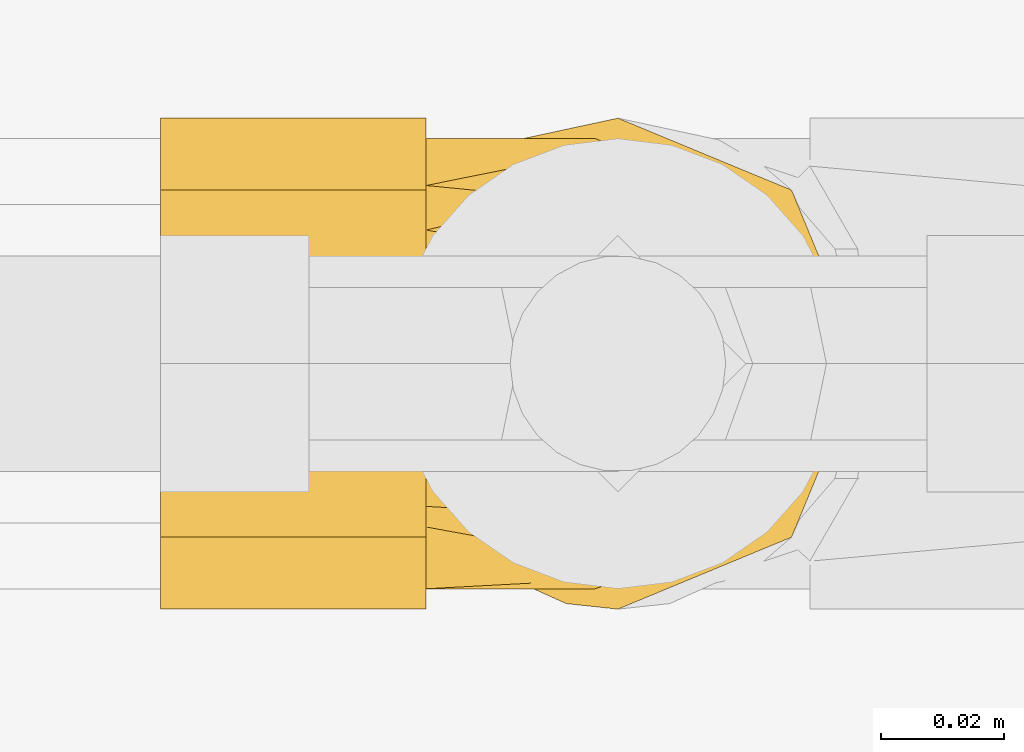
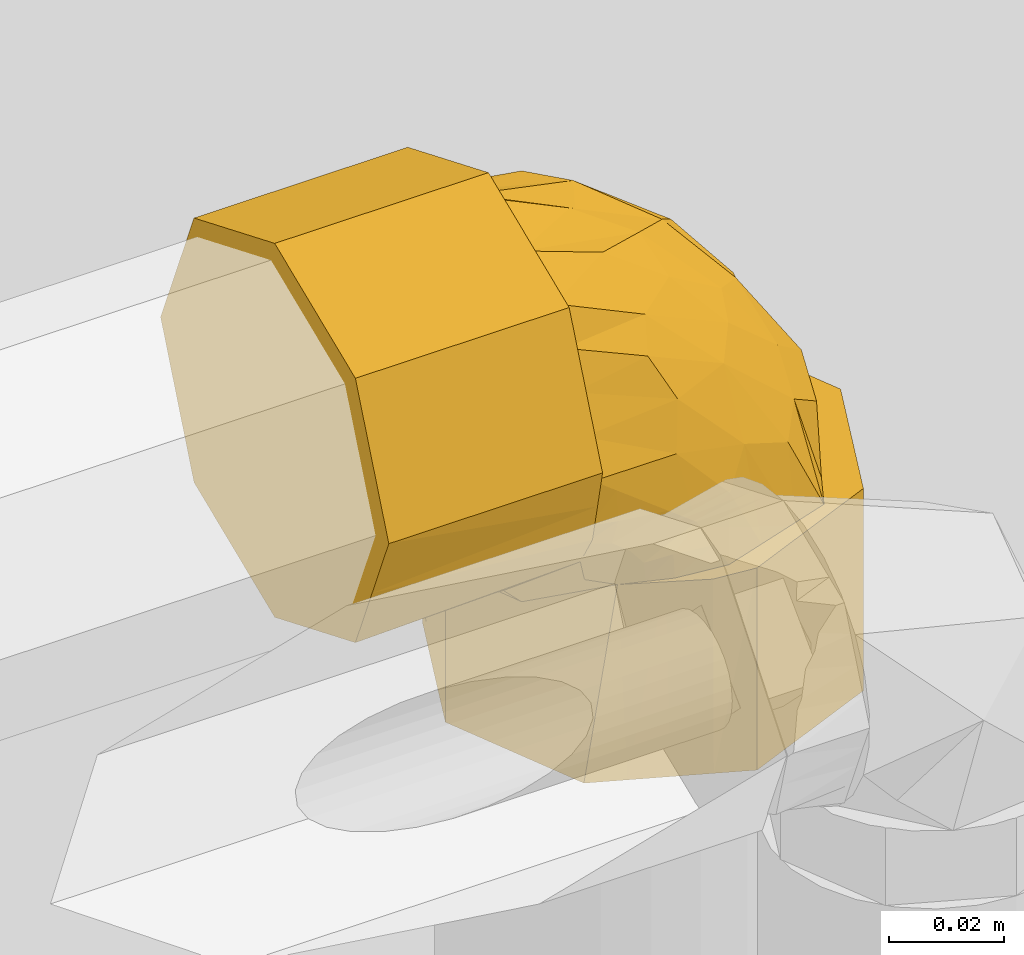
# One storey, part 153 of 652: 1 covering.
"""IFC2X3 building model written with IfcOpenShell, lengths in millimetres."""

from ifc_helpers import new_model, entity, si_unit, converted_unit, direction, frame, origin, place, context, subcontext, project, spatial, faceted_brep, material, type_object, element, save


model = new_model("IFC2X3")

# Units and contexts
model_context = context("Model", 3, precision=0.01, world=frame((0.0, 0.0, 308426.39999999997)), true_north=direction((6.123233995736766e-17, 1.0)))
plan_context = context("Plan", 3, precision=0.01, world=frame((0.0, 0.0, 308426.39999999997)), true_north=direction((6.123233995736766e-17, 1.0)))
body_context = subcontext(model_context, "Body", "Model", "MODEL_VIEW")
ifc_project = project(units=[si_unit("LENGTHUNIT", "METRE", prefix="MILLI"), si_unit("AREAUNIT", "SQUARE_METRE"), si_unit("VOLUMEUNIT", "CUBIC_METRE"), converted_unit("PLANEANGLEUNIT", "DEGREE", entity("IfcPlaneAngleMeasure", 0.017453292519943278), si_unit("PLANEANGLEUNIT", "RADIAN"), dimensions=[0, 0, 0, 0, 0, 0, 0])], contexts=[model_context, plan_context])

# Site, building, storey
site_placement = place(None, origin())
site = spatial("IfcSite", under=ifc_project, at=site_placement, Name="Default", CompositionType="ELEMENT")
building_placement = place(site_placement, origin())
building = spatial("IfcBuilding", under=site, at=building_placement, CompositionType="ELEMENT")
storey_placement = place(building_placement, frame((0.0, 0.0, 1730.6999999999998)))
storey = spatial("IfcBuildingStorey", under=building, at=storey_placement, Name="EG_Produktion_FFB", CompositionType="ELEMENT", Elevation=1730.6999999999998)

# Covering
ifc_material = material(Name="Dämmung - Armaflex-Schlauch")
covering_type = type_object("IfcCoveringType", Name="Rohrdämmung außen:Armaflex-Schlauch", PredefinedType="INSULATION")
covering_placement = place(storey_placement, frame((19395.91574999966, 59908.6467277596, 4391.353272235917)))
element("IfcCovering", 1, at=covering_placement, inside=storey, type_object=covering_type, material=ifc_material, Name="Rohrdämmung außen:Armaflex-Schlauch", ObjectType="Rohrdämmung außen:Armaflex-Schlauch", PredefinedType="INSULATION", context=body_context, shape_type="Brep", body=[
    faceted_brep([(60.14407617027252, 76.62300673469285, -72.4317722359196), (64.1318528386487, 77.08951820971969, -72.4317722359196), (70.33992920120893, 77.81577223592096, -72.4317722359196), (77.9757924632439, 74.37467999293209, -72.4317722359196), (85.61165572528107, 70.93358774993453, -72.4317722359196), (92.77248166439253, 67.7065704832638, -72.4317722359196), (99.93330760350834, 64.47955321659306, -72.4317722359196), (104.18429126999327, 52.916412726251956, -72.4317722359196), (108.4352749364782, 41.35327223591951, -72.4317722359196), (104.78880055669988, 34.14184701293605, -72.4317722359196), (101.14232617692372, 26.930421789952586, -72.4317722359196), (97.49585179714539, 19.71899656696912, -72.4317722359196), (93.84937741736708, 12.507571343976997, -72.4317722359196), (86.49570507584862, 10.125063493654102, -72.4317722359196), (78.41781713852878, 7.507917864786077, -72.4317722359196), (70.33992920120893, 4.890772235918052, -72.4317722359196), (64.13185283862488, 5.617026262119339, -72.4317722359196), (60.14407617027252, 6.083537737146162, -72.4317722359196), (55.312279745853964, 7.721836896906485, -72.4317722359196), (50.48048332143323, 9.36013605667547, -72.4317722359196), (58.09790960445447, 5.9231002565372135, -72.4317722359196), (65.71533588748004, 2.486064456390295, -72.4317722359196), (74.08425000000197, 1.5952722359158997, -72.4317722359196), (82.08002046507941, 4.907228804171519, -72.4317722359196), (88.14082570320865, 7.417696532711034, -72.4317722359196), (95.16911355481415, 10.3289086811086, -72.4317722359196), (102.19740140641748, 13.240120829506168, -72.4317722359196), (105.10861355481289, 20.26840868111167, -72.4317722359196), (108.01982570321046, 27.296696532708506, -72.4317722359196), (110.93103785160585, 34.32498438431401, -72.4317722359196), (113.84225000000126, 41.35327223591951, -72.4317722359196), (110.53029340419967, 49.349042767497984, -72.4317722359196), (108.01982570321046, 55.40984793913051, -72.4317722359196), (105.10861355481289, 62.43813579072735, -72.4317722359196), (102.19740140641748, 69.46642364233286, -72.4317722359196), (95.16911355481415, 72.37763579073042, -72.4317722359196), (88.14082570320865, 75.28884793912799, -72.4317722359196), (82.0800191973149, 77.79931619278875, -72.4317722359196), (74.08425000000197, 81.11127223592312, -72.4317722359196), (65.90827541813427, 79.3520978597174, -72.4317722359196), (57.732300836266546, 77.59292348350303, -72.4317722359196), (50.48048332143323, 73.34640841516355, -72.4317722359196), (55.312279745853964, 74.98470757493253, -72.4317722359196), (45.971098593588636, 13.240120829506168, -115.43752223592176), (43.05988644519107, 20.26840868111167, -115.43752223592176), (40.1486742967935, 27.296696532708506, -115.43752223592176), (37.63820666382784, 33.35750154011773, -115.43752223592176), (34.3262500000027, 41.35327223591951, -115.43752223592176), (37.6382059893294, 49.34904130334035, -115.43752223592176), (40.1486742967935, 55.40984793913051, -115.43752223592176), (43.0598864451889, 62.43813579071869, -115.43752223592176), (45.971098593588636, 69.46642364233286, -115.43752223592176), (52.999386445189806, 72.37763579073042, -115.43752223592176), (60.02767429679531, 75.28884793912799, -115.43752223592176), (67.05596214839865, 78.20006008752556, -115.43752223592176), (74.08425000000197, 81.11127223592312, -115.43752223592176), (81.11253785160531, 78.20006008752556, -115.43752223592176), (88.14082570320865, 75.28884793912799, -115.43752223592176), (95.16911355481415, 72.37763579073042, -115.43752223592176), (102.19740140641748, 69.46642364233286, -115.43752223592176), (105.10861355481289, 62.43813579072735, -115.43752223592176), (108.01982570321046, 55.40984793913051, -115.43752223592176), (110.93103785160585, 48.38156008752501, -115.43752223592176), (113.84225000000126, 41.35327223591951, -115.43752223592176), (110.93103785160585, 34.32498438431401, -115.43752223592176), (108.01982570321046, 27.296696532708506, -115.43752223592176), (105.10861355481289, 20.26840868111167, -115.43752223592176), (102.19740140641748, 13.240120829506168, -115.43752223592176), (90.0757916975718, 8.219185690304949, -115.43752223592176), (82.08002084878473, 4.907228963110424, -115.43752223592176), (74.08425000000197, 1.5952722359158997, -115.43752223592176), (67.05596214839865, 4.506484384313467, -115.43752223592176), (60.02767429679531, 7.417696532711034, -115.43752223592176), (52.999386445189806, 10.328908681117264, -115.43752223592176), (44.71268924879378, 16.057183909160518, -76.29438305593), (34.3262500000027, 41.35327223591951, -82.55017689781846), (36.63557258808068, 32.053751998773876, -81.35358538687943), (38.944895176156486, 22.754231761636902, -80.1569938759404), (37.790233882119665, 27.40399188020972, -80.75528963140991), (44.71268924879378, 66.6493605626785, -76.29438305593), (36.63557258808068, 50.65279247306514, -81.35358538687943), (38.944895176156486, 59.952312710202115, -80.1569938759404), (35.39615835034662, 45.661736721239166, -81.99579646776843), (43.00574999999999, 81.11127223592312, -41.353272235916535), (43.00574999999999, 77.79931569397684, -33.35750183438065), (43.00574999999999, 75.28884793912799, -27.29669653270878), (43.00574999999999, 72.37763579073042, -20.26840868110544), (43.00574999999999, 69.46642364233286, -13.240120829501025), (43.00574999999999, 62.43813579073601, -10.328908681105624), (43.00574999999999, 55.40984793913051, -7.417696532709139), (43.00574999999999, 49.34904137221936, -4.90722825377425), (43.00574999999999, 41.35327223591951, -1.5952722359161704), (43.00574999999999, 33.357502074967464, -4.907228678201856), (43.00574999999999, 27.296696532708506, -7.417696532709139), (43.00574999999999, 20.26840868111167, -10.328908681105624), (43.00574999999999, 13.240120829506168, -13.240120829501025), (43.00574999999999, 10.3289086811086, -20.26840868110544), (43.00574999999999, 7.417696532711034, -27.29669653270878), (43.00574999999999, 4.506484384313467, -34.32498438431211), (43.00574999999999, 1.5952722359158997, -41.353272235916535), (43.00574999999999, 3.3544632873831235, -49.52928377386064), (43.00574999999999, 5.113654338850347, -57.705295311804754), (43.00574999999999, 9.36013605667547, -64.95703891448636), (43.00574999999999, 7.721836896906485, -60.1252424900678), (43.00574999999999, 6.083537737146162, -55.29344606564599), (43.00574999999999, 5.617026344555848, -51.305670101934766), (43.005749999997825, 5.253899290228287, -48.20163156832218), (43.00574999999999, 4.890772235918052, -45.097593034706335), (43.00574999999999, 8.22731807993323, -37.69714258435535), (43.00574999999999, 11.563863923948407, -30.296692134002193), (43.00574999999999, 14.900409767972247, -22.896241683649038), (43.00574999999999, 18.236955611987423, -15.495791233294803), (43.00574999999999, 24.01603476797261, -13.372405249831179), (43.00574999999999, 29.795113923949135, -11.249019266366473), (43.00574999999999, 41.35327223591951, -7.002247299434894), (43.00574999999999, 48.56686113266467, -10.65162291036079), (43.00574999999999, 55.78045002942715, -14.30099852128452), (43.00574999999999, 62.99403892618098, -17.95037413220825), (43.00574999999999, 70.2076278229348, -21.599749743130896), (43.00574999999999, 72.10966392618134, -27.47421056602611), (43.00574999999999, 74.01170002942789, -33.34867138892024), (43.00574999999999, 77.81577223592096, -45.097593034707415), (43.00574999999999, 77.45264518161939, -48.201631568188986), (43.00574999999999, 77.08951812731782, -51.30567010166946), (43.00574999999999, 76.62300673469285, -55.29344606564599), (43.00574999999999, 74.98470757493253, -60.1252424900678), (43.00574999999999, 73.34640841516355, -64.95703891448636), (43.00574999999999, 76.7834397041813, -57.3396335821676), (43.00574999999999, 80.22047099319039, -49.72222824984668), (0.0, 4.506484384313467, -34.32498438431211), (0.0, 7.417696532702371, -27.29669653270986), (0.0, 10.328908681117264, -20.26840868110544), (0.0, 13.240120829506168, -13.240120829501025), (0.0, 25.361730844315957, -8.219185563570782), (0.0, 33.35750154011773, -4.907228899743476), (0.0, 41.35327223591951, -1.5952722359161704), (0.0, 48.38156008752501, -4.506484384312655), (0.0, 55.40984793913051, -7.417696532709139), (0.0, 62.43813579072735, -10.328908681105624), (0.0, 69.46642364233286, -13.240120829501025), (0.0, 72.37763579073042, -20.26840868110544), (0.0, 75.28884793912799, -27.29669653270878), (0.0, 78.20006008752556, -34.32498438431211), (0.0, 81.11127223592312, -41.353272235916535), (0.0, 78.20006008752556, -48.381560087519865), (0.0, 75.28884793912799, -55.40984793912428), (0.0, 72.37763579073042, -62.4381357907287), (0.0, 69.46642364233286, -69.46642364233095), (0.0, 62.43813579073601, -72.37763579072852), (0.0, 55.40984793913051, -75.28884793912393), (0.0, 49.34904309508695, -77.79931550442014), (0.0, 41.35327223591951, -81.1112722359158), (0.0, 33.357503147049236, -77.79931623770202), (0.0, 27.296696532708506, -75.28884793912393), (0.0, 20.26840868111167, -72.37763579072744), (0.0, 13.240120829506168, -69.46642364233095), (0.0, 10.3289086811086, -62.43813579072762), (0.0, 7.417696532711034, -55.40984793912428), (0.0, 4.907228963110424, -49.34904308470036), (0.0, 1.5952722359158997, -41.353272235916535), (32.88734533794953, 41.35327223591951, -81.11127223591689), (34.08393684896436, 32.05375199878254, -78.80194964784), (35.28052835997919, 22.754231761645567, -76.49262705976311), (33.99610617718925, 32.736343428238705, -78.97145557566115), (39.14313917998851, 16.057183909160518, -70.72483298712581), (39.14313917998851, 66.6493605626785, -70.72483298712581), (34.08393684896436, 50.65279247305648, -78.80194964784), (35.28052835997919, 59.95231271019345, -76.49262705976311), (33.99610617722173, 49.97020104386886, -78.9714555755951), (33.44172575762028, 45.66173663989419, -80.04136390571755), (58.16629086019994, 12.124299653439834, -28.19110575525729), (86.24367512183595, 11.869467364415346, -56.173355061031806), (75.43570574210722, 8.37855585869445, -50.643774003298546), (63.77170858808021, 4.890772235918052, -60.99290399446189), (71.00962303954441, 5.704393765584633, -57.90061631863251), (60.330829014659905, 5.817790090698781, -45.89785871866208), (74.69227230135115, 14.285355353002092, -36.820010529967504), (90.57284197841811, 17.28695187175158, -51.80207039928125), (77.92193606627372, 41.35327223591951, -23.738422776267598), (68.6359141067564, 33.28725759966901, -18.343086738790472), (87.88495600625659, 32.93381303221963, -34.51769201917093), (100.80694021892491, 41.35327223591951, -60.25843487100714), (100.52515800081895, 31.928717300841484, -53.73292005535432), (79.21479866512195, 20.52698465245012, -33.524488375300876), (45.38936071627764, 4.890772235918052, -46.92212877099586), (47.77297143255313, 4.890772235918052, -48.74666450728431), (52.54019286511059, 4.890772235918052, -52.39573597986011), (58.15595072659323, 4.890772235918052, -56.69431998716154), (60.494157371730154, 17.193351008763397, -23.185833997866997), (90.87816522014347, 23.505882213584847, -44.1928989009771), (98.10654117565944, 22.489971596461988, -58.026413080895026), (69.6013927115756, 24.51843234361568, -22.770111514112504), (81.49463540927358, 26.85666627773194, -30.82495311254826), (60.463843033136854, 41.35327223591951, -15.37033503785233), (59.306852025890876, 41.35327223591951, -14.815761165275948), (93.17860550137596, 41.35327223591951, -48.085097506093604), (89.44118018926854, 41.35327223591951, -42.12089419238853), (85.55027078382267, 41.35327223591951, -35.91176014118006), (57.68461622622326, 26.96209309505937, -14.936716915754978), (62.34563514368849, 8.907205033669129, -36.83398515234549), (98.93822756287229, 41.35327223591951, -57.276333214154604), (67.32420901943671, 4.890772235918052, -67.17975226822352), (59.547719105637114, 5.540058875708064, -66.82609985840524), (54.289522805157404, 6.751916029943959, -67.53281751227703), (33.633715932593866, 41.35327223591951, -81.8038063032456), (51.45915617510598, 6.670824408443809, -63.978365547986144), (44.90888377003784, 11.210836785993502, -70.52863875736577), (47.904704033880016, 6.751916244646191, -61.14799970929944), (48.5166417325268, 5.555021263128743, -55.918821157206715), (59.54771910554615, 77.16648559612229, -66.82609985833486), (67.32420901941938, 77.81577223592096, -67.17975226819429), (44.90888341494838, 71.49570746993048, -70.52863885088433), (51.459155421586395, 76.03571971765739, -63.978366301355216), (54.289522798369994, 75.95462843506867, -67.53281753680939), (58.15595072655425, 77.81577223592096, -56.69431998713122), (47.90470400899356, 75.95462822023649, -61.14799971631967), (48.51664173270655, 77.15152320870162, -55.9188211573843), (47.77297143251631, 77.81577223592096, -48.74666450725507), (63.77170858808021, 77.81577223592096, -60.99290399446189), (45.389360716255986, 77.81577223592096, -46.922128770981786), (52.540192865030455, 77.81577223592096, -52.39573597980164), (77.88884430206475, 74.80598737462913, -55.82565961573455), (85.68390575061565, 71.5622524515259, -57.28959429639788), (57.202126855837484, 75.79919171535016, -39.02450620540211), (85.21783817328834, 50.8847120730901, -32.0634672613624), (76.99963686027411, 65.94296495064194, -35.56661217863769), (68.28685011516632, 73.58946657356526, -40.99370372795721), (64.58632217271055, 68.10768824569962, -28.534989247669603), (64.72447259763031, 76.81449307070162, -49.33889122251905), (73.03938972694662, 76.81985109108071, -59.448940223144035), (85.65544995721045, 67.36791849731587, -47.62726014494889), (75.8333858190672, 60.18508487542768, -28.791268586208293), (65.65295551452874, 51.08904624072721, -17.084732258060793), (60.45142062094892, 60.01109950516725, -18.6401759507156), (57.306708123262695, 73.08709853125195, -32.102457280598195), (95.6527041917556, 58.13792656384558, -50.634728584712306), (86.3305076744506, 61.63866824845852, -40.67615020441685), (94.01862068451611, 65.97235995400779, -59.442278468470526), (97.03201021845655, 49.62375736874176, -46.78958221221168)], [[[0, 1, 2, 3, 4, 5, 6, 7, 8, 9, 10, 11, 12, 13, 14, 15, 16, 17, 18, 19, 20, 21, 22, 23, 24, 25, 26, 27, 28, 29, 30, 31, 32, 33, 34, 35, 36, 37, 38, 39, 40, 41, 42]], [[43, 44, 45, 46, 47, 48, 49, 50, 51, 52, 53, 54, 55, 56, 57, 58, 59, 60, 61, 62, 63, 64, 65, 66, 67, 68, 69, 70, 71, 72, 73]], [[44, 43, 74]], [[75, 47, 46]], [[76, 75, 46]], [[45, 77, 78, 76]], [[44, 74, 77]], [[72, 20, 73]], [[71, 21, 72]], [[43, 19, 74]], [[77, 45, 44]], [[72, 21, 20]], [[71, 22, 21]], [[45, 76, 46]], [[71, 70, 22]], [[73, 20, 19]], [[19, 43, 73]], [[23, 22, 70, 69, 68, 67, 26, 25, 24]], [[26, 67, 66, 65, 64, 63, 30, 29, 28, 27]], [[38, 37, 36, 35, 34, 59, 58, 57, 56, 55]], [[30, 63, 62, 61, 60, 59, 34, 33, 32, 31]], [[53, 40, 39]], [[50, 79, 51]], [[39, 54, 53]], [[41, 52, 51]], [[40, 52, 41]], [[80, 49, 48]], [[49, 80, 81]], [[55, 54, 38]], [[48, 75, 82, 80]], [[38, 54, 39]], [[79, 50, 81]], [[52, 40, 53]], [[48, 47, 75]], [[50, 49, 81]], [[79, 41, 51]], [[83, 84, 85, 86, 87, 88, 89, 90, 91, 92, 93, 94, 95, 96, 97, 98, 99, 100, 101, 102, 103, 104, 105, 106, 107, 108, 109, 110, 111, 112, 113, 114, 115, 116, 117, 118, 119, 120, 121, 122, 123, 124, 125, 126, 127, 128]], [[129, 130, 131, 132, 133, 134, 135, 136, 137, 138, 139, 140, 141, 142, 143, 144, 145, 146, 147, 148, 149, 150, 151, 152, 153, 154, 155, 156, 157, 158, 159]], [[135, 134, 133, 132, 95, 94, 93, 92, 91]], [[95, 132, 131, 130, 129, 159, 99, 98, 97, 96]], [[159, 158, 157, 100]], [[101, 156, 102]], [[99, 159, 100]], [[101, 100, 157]], [[152, 151, 160]], [[102, 156, 155]], [[153, 161, 162]], [[161, 153, 152]], [[152, 160, 163, 161]], [[154, 164, 155]], [[164, 154, 162]], [[156, 101, 157]], [[154, 153, 162]], [[164, 102, 155]], [[148, 147, 165]], [[149, 166, 150]], [[166, 149, 167]], [[160, 151, 150]], [[148, 165, 167]], [[145, 127, 146]], [[144, 128, 145]], [[147, 126, 165]], [[167, 149, 148]], [[145, 128, 127]], [[144, 83, 128]], [[150, 166, 168, 169, 160]], [[144, 143, 83]], [[146, 127, 126]], [[126, 147, 146]], [[91, 90, 89, 88, 87, 139, 138, 137, 136, 135]], [[141, 140, 139, 87, 86, 85, 84, 83, 143, 142]], [[109, 170, 110]], [[13, 171, 172]], [[14, 13, 172]], [[173, 174, 175]], [[176, 171, 177]], [[15, 14, 174]], [[178, 179, 180]], [[9, 181, 182]], [[172, 175, 174]], [[13, 12, 171]], [[12, 11, 177]], [[176, 177, 183]], [[175, 107, 184, 185, 186, 187, 173]], [[188, 170, 176]], [[176, 172, 171]], [[189, 190, 182]], [[11, 10, 190]], [[177, 11, 190]], [[170, 188, 110]], [[191, 183, 192]], [[179, 178, 193, 194]], [[182, 190, 10]], [[189, 182, 180]], [[177, 190, 189]], [[182, 10, 9]], [[182, 195, 180]], [[177, 189, 183]], [[177, 171, 12]], [[180, 195, 196, 197, 178]], [[113, 179, 194]], [[112, 111, 198, 113]], [[198, 111, 188]], [[194, 114, 113]], [[179, 191, 192]], [[199, 175, 172]], [[199, 108, 175]], [[172, 176, 199]], [[188, 111, 110]], [[199, 170, 109]], [[183, 188, 176]], [[108, 199, 109]], [[188, 191, 198]], [[108, 107, 175]], [[176, 170, 199]], [[192, 189, 180]], [[188, 183, 191]], [[189, 192, 183]], [[179, 192, 180]], [[181, 9, 8]], [[182, 181, 200, 195]], [[191, 179, 198]], [[179, 113, 198]], [[174, 173, 201, 15]], [[172, 174, 14]], [[173, 202, 201]], [[173, 187, 203]], [[18, 203, 19]], [[201, 17, 16, 15]], [[204, 76, 163]], [[74, 164, 162, 77]], [[163, 76, 78, 77, 162, 161]], [[205, 102, 206]], [[206, 164, 74]], [[106, 105, 104, 185, 184, 107]], [[205, 207, 102]], [[186, 185, 208, 187]], [[204, 75, 76]], [[163, 160, 204]], [[205, 206, 19]], [[164, 206, 102]], [[203, 205, 19]], [[19, 206, 74]], [[201, 202, 17]], [[17, 202, 18]], [[203, 202, 173]], [[18, 202, 203]], [[102, 207, 103]], [[103, 208, 104]], [[207, 205, 187]], [[208, 103, 207]], [[208, 185, 104]], [[187, 208, 207]], [[203, 187, 205]], [[204, 160, 169]], [[209, 210, 0]], [[169, 168, 80, 82]], [[80, 166, 167, 81]], [[41, 211, 212]], [[1, 0, 210, 2]], [[213, 212, 214]], [[204, 169, 82]], [[79, 165, 211]], [[126, 125, 215]], [[80, 168, 166]], [[212, 211, 126]], [[204, 82, 75]], [[167, 165, 79, 81]], [[216, 124, 217]], [[218, 209, 213]], [[122, 121, 219, 217, 124, 123]], [[41, 79, 211]], [[211, 165, 126]], [[209, 0, 42]], [[125, 124, 216]], [[126, 215, 212]], [[125, 216, 215]], [[220, 214, 216, 217]], [[213, 42, 41]], [[212, 213, 41]], [[210, 209, 218]], [[214, 212, 215]], [[209, 42, 213]], [[215, 216, 214]], [[218, 213, 214]], [[4, 221, 222]], [[223, 121, 120]], [[224, 178, 197, 196]], [[225, 226, 227]], [[228, 226, 221]], [[229, 218, 228]], [[222, 226, 230]], [[231, 232, 224]], [[3, 229, 221]], [[233, 232, 231]], [[234, 223, 120]], [[229, 2, 210, 218]], [[224, 235, 236]], [[4, 3, 221]], [[228, 218, 214, 220, 217, 219, 121]], [[237, 222, 230]], [[6, 235, 7]], [[235, 6, 237]], [[238, 200, 7]], [[228, 223, 226]], [[224, 238, 235]], [[234, 226, 223]], [[227, 117, 233]], [[193, 232, 115]], [[224, 232, 178]], [[115, 114, 194, 193]], [[235, 237, 236]], [[238, 224, 196]], [[226, 222, 221]], [[222, 237, 5]], [[5, 237, 6]], [[5, 4, 222]], [[237, 230, 236]], [[7, 200, 181, 8]], [[7, 235, 238]], [[238, 196, 195, 200]], [[227, 118, 117]], [[193, 178, 232]], [[231, 236, 225]], [[233, 117, 116]], [[232, 233, 116]], [[227, 233, 231]], [[229, 3, 2]], [[228, 221, 229]], [[121, 223, 228]], [[119, 118, 234, 120]], [[234, 118, 227]], [[227, 226, 234]], [[232, 116, 115]], [[225, 236, 230]], [[224, 236, 231]], [[226, 225, 230]], [[231, 225, 227]]]),
])

save(model, "model.ifc")
